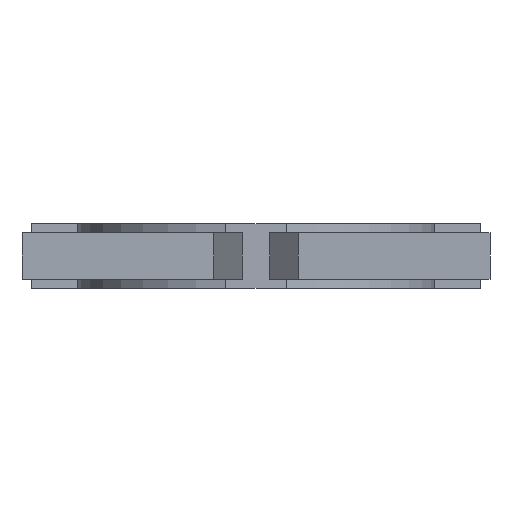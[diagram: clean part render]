
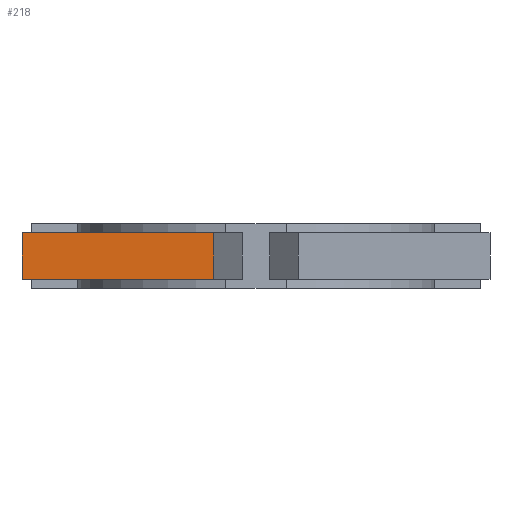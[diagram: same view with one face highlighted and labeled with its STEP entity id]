
A CAD part, front view. The second image highlights one B-rep face of the part: STEP entity #218.
In plain terms, the highlighted planar face has unit normal (0, -1, 0).
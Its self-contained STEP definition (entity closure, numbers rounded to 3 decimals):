
#218 = ADVANCED_FACE( '', ( #467 ), #468, .F. );
#467 = FACE_OUTER_BOUND( '', #794, .T. );
#468 = PLANE( '', #795 );
#794 = EDGE_LOOP( '', ( #1370, #1371, #1372, #1373 ) );
#795 = AXIS2_PLACEMENT_3D( '', #1374, #1375, #1376 );
#1370 = ORIENTED_EDGE( '', *, *, #1779, .T. );
#1371 = ORIENTED_EDGE( '', *, *, #1680, .F. );
#1372 = ORIENTED_EDGE( '', *, *, #1780, .F. );
#1373 = ORIENTED_EDGE( '', *, *, #1781, .T. );
#1374 = CARTESIAN_POINT( '', ( -50.5, -109.73, 5. ) );
#1375 = DIRECTION( '', ( 0., 1., 0. ) );
#1376 = DIRECTION( '', ( 0., 0., 1. ) );
#1680 = EDGE_CURVE( '', #2044, #2042, #2046, .T. );
#1779 = EDGE_CURVE( '', #2176, #2042, #2177, .T. );
#1780 = EDGE_CURVE( '', #2178, #2044, #2179, .T. );
#1781 = EDGE_CURVE( '', #2178, #2176, #2180, .T. );
#2042 = VERTEX_POINT( '', #2600 );
#2044 = VERTEX_POINT( '', #2603 );
#2046 = LINE( '', #2606, #2607 );
#2176 = VERTEX_POINT( '', #2826 );
#2177 = LINE( '', #2827, #2828 );
#2178 = VERTEX_POINT( '', #2829 );
#2179 = LINE( '', #2830, #2831 );
#2180 = LINE( '', #2832, #2833 );
#2600 = CARTESIAN_POINT( '', ( -9.118, -109.73, -5. ) );
#2603 = CARTESIAN_POINT( '', ( -9.118, -109.73, 5. ) );
#2606 = CARTESIAN_POINT( '', ( -9.118, -109.73, 5. ) );
#2607 = VECTOR( '', #3002, 1000. );
#2826 = CARTESIAN_POINT( '', ( -50.5, -109.73, -5. ) );
#2827 = CARTESIAN_POINT( '', ( -50.5, -109.73, -5. ) );
#2828 = VECTOR( '', #3082, 1000. );
#2829 = CARTESIAN_POINT( '', ( -50.5, -109.73, 5. ) );
#2830 = CARTESIAN_POINT( '', ( -50.5, -109.73, 5. ) );
#2831 = VECTOR( '', #3083, 1000. );
#2832 = CARTESIAN_POINT( '', ( -50.5, -109.73, 5. ) );
#2833 = VECTOR( '', #3084, 1000. );
#3002 = DIRECTION( '', ( 0., 0., -1. ) );
#3082 = DIRECTION( '', ( 1., 0., 0. ) );
#3083 = DIRECTION( '', ( 1., 0., 0. ) );
#3084 = DIRECTION( '', ( 0., 0., -1. ) );
